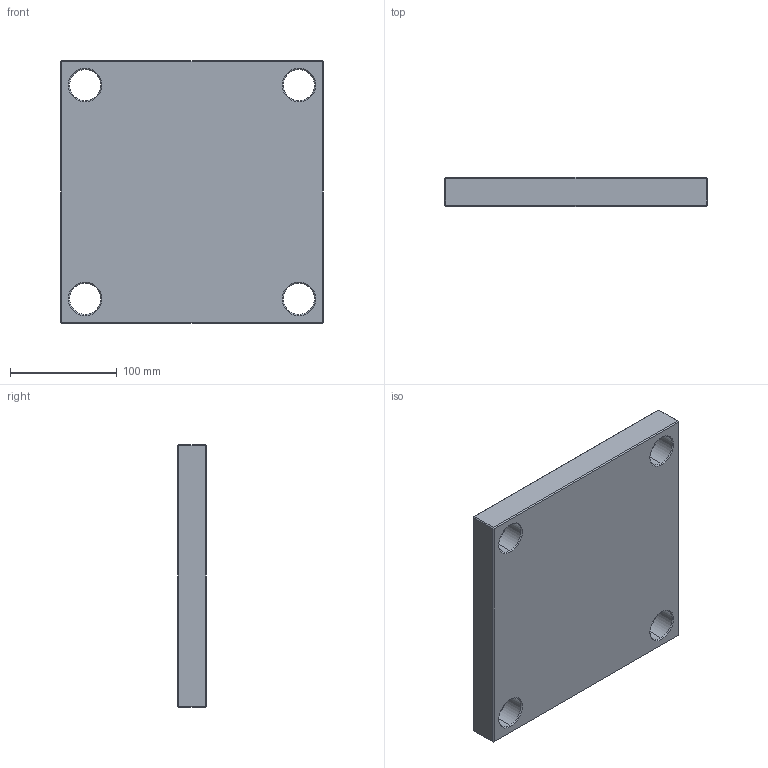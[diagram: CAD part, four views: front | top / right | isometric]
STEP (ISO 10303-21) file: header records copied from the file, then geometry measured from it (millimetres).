
FILE_DESCRIPTION (( 'STEP AP214' ), '1' );
FILE_NAME ('PCX-246x246x27.STEP', '2020-04-30T17:05:23', ( 'August' ), ( '' ), 'SwSTEP 2.0', 'SolidWorks 2018', '' );
FILE_SCHEMA (( 'AUTOMOTIVE_DESIGN' ));
Length unit declared in the file: millimetre
Products named in the file (1): PCX-246x246x27
Bounding box: 246 x 27 x 246 mm (x, y, z)
Volume: 1540587.2 mm3; surface area: 154211 mm2
Topology: 1 solids, 1 shells, 82 faces, 168 edges, 96 vertices
Faces by surface type: plane 34, cone 24, cylinder 24
Entity records: 2170 total; most frequent: DIRECTION 406, CARTESIAN_POINT 347, ORIENTED_EDGE 336, EDGE_CURVE 168, AXIS2_PLACEMENT_3D 155, EDGE_LOOP 98, LINE 96, VERTEX_POINT 96
